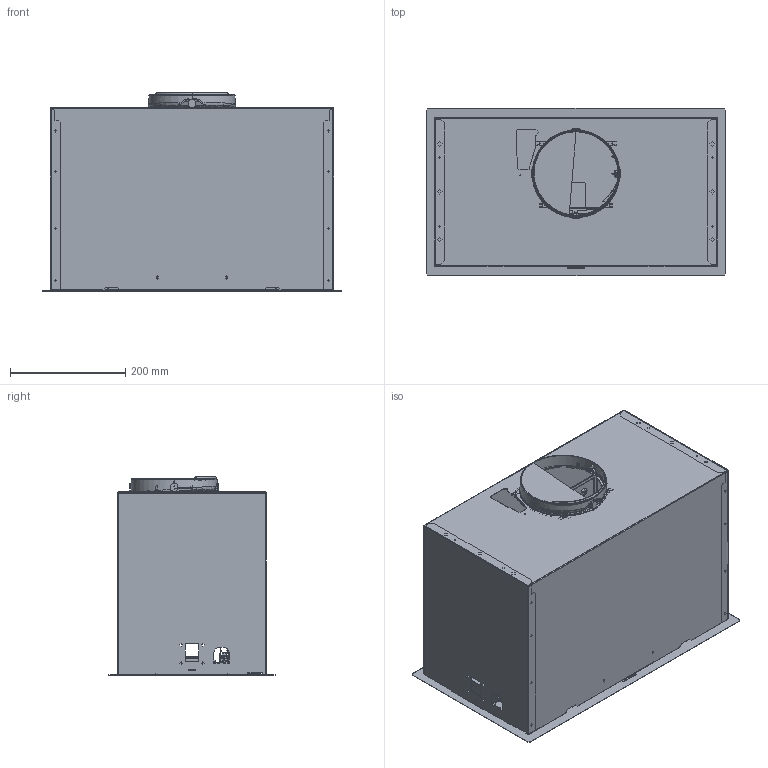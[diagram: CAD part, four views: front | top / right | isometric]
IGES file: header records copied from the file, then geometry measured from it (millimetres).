
Global section: file name: F:\_CONVERSIONE_CAD_2024_2025\03_3D kits new\07_Hoods\Solo Logo Piatto o 3D\3D001_Hoods_Box-Flush-Premium_FBFP-A52\3D001_Hoods_Box-Flush-Premium_FBFP-A52.igs; native system: Rhinoceros ( Jan  9 2024 ); preprocessor: Trout Lake IGES 012 Jan  9 2024; date: 240209.103504; units: millimetre
Bounding box: 520 x 290 x 345.94 mm (x, y, z)
Surface area: 1905653.8 mm2 (no closed solid volume)
Topology: 0 solids, 0 shells, 8107 faces, 48048 edges, 47853 vertices
Faces by surface type: bspline 8107
